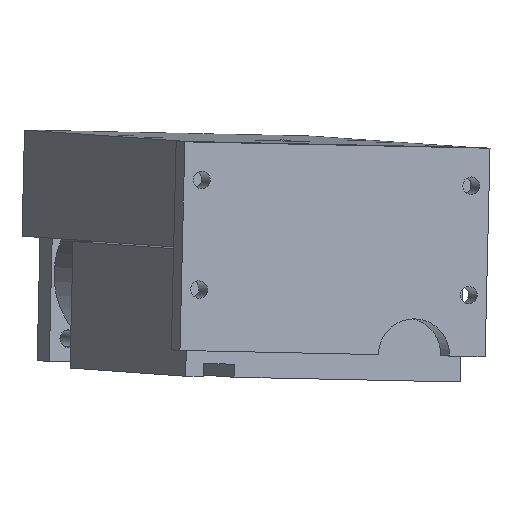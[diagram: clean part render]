
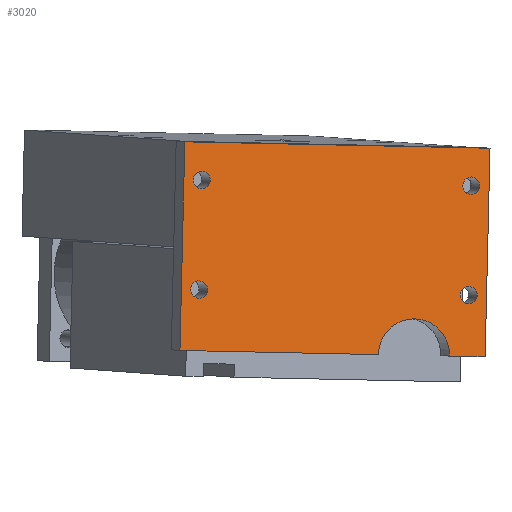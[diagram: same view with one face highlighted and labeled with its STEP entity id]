
A CAD part, front view. The second image highlights one B-rep face of the part: STEP entity #3020.
In plain terms, the highlighted planar face has unit normal (0.222, -0.975, -0.016).
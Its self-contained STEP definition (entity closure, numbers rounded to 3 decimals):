
#2684=CARTESIAN_POINT('',(80.492,-100.339,95.57));
#2685=VERTEX_POINT('',#2684);
#2686=CARTESIAN_POINT('',(77.252,-101.077,95.638));
#2687=DIRECTION('',(-0.222,0.975,0.016));
#2688=DIRECTION('',(0.975,0.222,-0.02));
#2689=AXIS2_PLACEMENT_3D('',#2686,#2687,#2688);
#2690=CIRCLE('',#2689,3.324);
#2691=EDGE_CURVE('',#2685,#2685,#2690,.T.);
#2725=CARTESIAN_POINT('',(-22.843,-123.858,97.736));
#2726=VERTEX_POINT('',#2725);
#2727=CARTESIAN_POINT('',(-26.083,-124.596,97.803));
#2728=DIRECTION('',(-0.222,0.975,0.016));
#2729=DIRECTION('',(0.975,0.222,-0.02));
#2730=AXIS2_PLACEMENT_3D('',#2727,#2728,#2729);
#2731=CIRCLE('',#2730,3.324);
#2732=EDGE_CURVE('',#2726,#2726,#2731,.T.);
#2782=CARTESIAN_POINT('',(81.474,-100.788,137.556));
#2783=VERTEX_POINT('',#2782);
#2784=CARTESIAN_POINT('',(78.234,-101.525,137.624));
#2785=DIRECTION('',(-0.222,0.975,0.016));
#2786=DIRECTION('',(0.975,0.222,-0.02));
#2787=AXIS2_PLACEMENT_3D('',#2784,#2785,#2786);
#2788=CIRCLE('',#2787,3.324);
#2789=EDGE_CURVE('',#2783,#2783,#2788,.T.);
#2831=CARTESIAN_POINT('',(-21.861,-124.307,139.722));
#2832=VERTEX_POINT('',#2831);
#2833=CARTESIAN_POINT('',(-25.101,-125.044,139.79));
#2834=DIRECTION('',(-0.222,0.975,0.016));
#2835=DIRECTION('',(0.975,0.222,-0.02));
#2836=AXIS2_PLACEMENT_3D('',#2833,#2834,#2835);
#2837=CIRCLE('',#2836,3.324);
#2838=EDGE_CURVE('',#2832,#2832,#2837,.T.);
#2848=CARTESIAN_POINT('',(85.397,-100.127,151.976));
#2849=VERTEX_POINT('',#2848);
#2850=CARTESIAN_POINT('',(83.527,-99.273,72.003));
#2851=VERTEX_POINT('',#2850);
#2852=CARTESIAN_POINT('',(85.397,-100.127,151.976));
#2853=DIRECTION('',(-0.023,0.011,-1.));
#2854=VECTOR('',#2853,80.0);
#2855=LINE('',#2852,#2854);
#2856=EDGE_CURVE('',#2849,#2851,#2855,.T.);
#2879=CARTESIAN_POINT('',(69.879,-102.379,72.289));
#2880=VERTEX_POINT('',#2879);
#2881=CARTESIAN_POINT('',(83.527,-99.273,72.003));
#2882=DIRECTION('',(-0.975,-0.222,0.02));
#2883=VECTOR('',#2882,14.);
#2884=LINE('',#2881,#2883);
#2885=EDGE_CURVE('',#2851,#2880,#2884,.T.);
#2903=CARTESIAN_POINT('',(42.583,-108.591,72.861));
#2904=VERTEX_POINT('',#2903);
#2905=CARTESIAN_POINT('',(56.231,-105.485,72.575));
#2906=DIRECTION('',(0.222,-0.975,-0.016));
#2907=DIRECTION('',(0.975,0.222,-0.02));
#2908=AXIS2_PLACEMENT_3D('',#2905,#2906,#2907);
#2909=CIRCLE('',#2908,14.);
#2910=EDGE_CURVE('',#2880,#2904,#2909,.T.);
#2928=CARTESIAN_POINT('',(-33.456,-125.898,74.454));
#2929=VERTEX_POINT('',#2928);
#2930=CARTESIAN_POINT('',(42.583,-108.591,72.861));
#2931=DIRECTION('',(-0.975,-0.222,0.02));
#2932=VECTOR('',#2931,78.0);
#2933=LINE('',#2930,#2932);
#2934=EDGE_CURVE('',#2904,#2929,#2933,.T.);
#2952=CARTESIAN_POINT('',(-31.586,-126.752,154.428));
#2953=VERTEX_POINT('',#2952);
#2954=CARTESIAN_POINT('',(-33.456,-125.898,74.454));
#2955=DIRECTION('',(0.023,-0.011,1.));
#2956=VECTOR('',#2955,80.0);
#2957=LINE('',#2954,#2956);
#2958=EDGE_CURVE('',#2929,#2953,#2957,.T.);
#2976=CARTESIAN_POINT('',(-31.586,-126.752,154.428));
#2977=DIRECTION('',(0.975,0.222,-0.02));
#2978=VECTOR('',#2977,120.);
#2979=LINE('',#2976,#2978);
#2980=EDGE_CURVE('',#2953,#2849,#2979,.T.);
#2995=CARTESIAN_POINT('',(27.153,-112.732,112.503));
#2996=DIRECTION('',(0.222,-0.975,-0.016));
#2997=DIRECTION('',(0.975,0.222,-0.02));
#2998=AXIS2_PLACEMENT_3D('',#2995,#2996,#2997);
#2999=PLANE('',#2998);
#3000=ORIENTED_EDGE('',*,*,#2856,.F.);
#3001=ORIENTED_EDGE('',*,*,#2980,.F.);
#3002=ORIENTED_EDGE('',*,*,#2958,.F.);
#3003=ORIENTED_EDGE('',*,*,#2934,.F.);
#3004=ORIENTED_EDGE('',*,*,#2910,.F.);
#3005=ORIENTED_EDGE('',*,*,#2885,.F.);
#3006=EDGE_LOOP('',(#3000,#3001,#3002,#3003,#3004,#3005));
#3007=FACE_OUTER_BOUND('',#3006,.T.);
#3008=ORIENTED_EDGE('',*,*,#2691,.T.);
#3009=EDGE_LOOP('',(#3008));
#3010=FACE_BOUND('',#3009,.T.);
#3011=ORIENTED_EDGE('',*,*,#2732,.T.);
#3012=EDGE_LOOP('',(#3011));
#3013=FACE_BOUND('',#3012,.T.);
#3014=ORIENTED_EDGE('',*,*,#2789,.T.);
#3015=EDGE_LOOP('',(#3014));
#3016=FACE_BOUND('',#3015,.T.);
#3017=ORIENTED_EDGE('',*,*,#2838,.T.);
#3018=EDGE_LOOP('',(#3017));
#3019=FACE_BOUND('',#3018,.T.);
#3020=ADVANCED_FACE('',(#3007,#3010,#3013,#3016,#3019),#2999,.T.);
